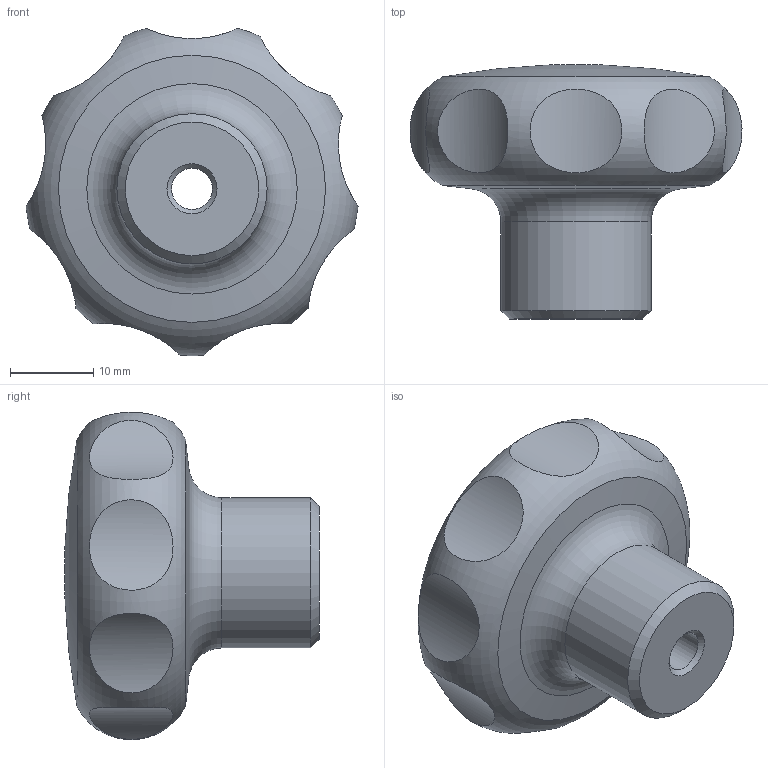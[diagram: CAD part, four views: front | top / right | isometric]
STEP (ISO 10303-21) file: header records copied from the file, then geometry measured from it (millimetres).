
FILE_DESCRIPTION( ( 'STEP AP203' ), '1' );
FILE_NAME( 'C:/Temp/Ganter_Step_05_03_2020/data/2_2/gn_5335/gn_5335_ni_d/Stainless steel-Star knob GN 5335-40-M6-D.stp', '2020-03-05T12:10:23', ( 'License CC BY-ND 4.0' ), ( 'CADENAS' ), ' ', 'PARTsolutions', ' ' );
FILE_SCHEMA( ( 'CONFIG_CONTROL_DESIGN' ) );
Length unit declared in the file: millimetre
Products named in the file (1): _Stainless steel-Star knob GN 5335-40-M6-D
Bounding box: 39.77 x 30.45 x 39.22 mm (x, y, z)
Volume: 18020.9 mm3; surface area: 4689.3 mm2
Topology: 1 solids, 1 shells, 20 faces, 30 edges, 20 vertices
Faces by surface type: cylinder 12, cone 3, torus 2, sphere 2, plane 1
Full cylindrical faces by diameter (mm): 4.917 x1, 6 x1, 18 x1
Entity records: 1195 total; most frequent: CARTESIAN_POINT 828, DIRECTION 64, EDGE_LOOP 40, ORIENTED_EDGE 40, AXIS2_PLACEMENT_3D 32, FACE_OUTER_BOUND 27, VERTEX_POINT 21, ADVANCED_FACE 20
